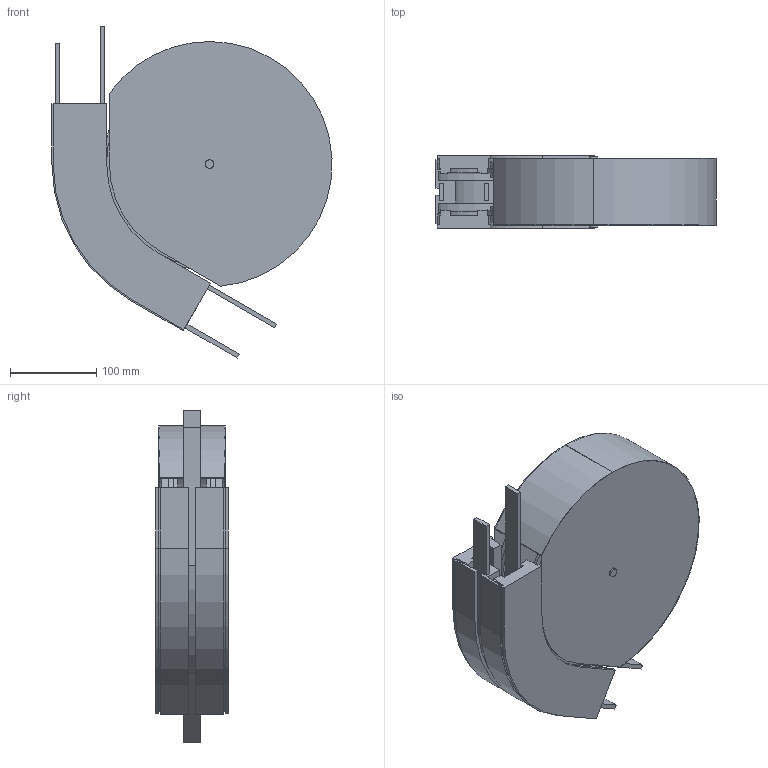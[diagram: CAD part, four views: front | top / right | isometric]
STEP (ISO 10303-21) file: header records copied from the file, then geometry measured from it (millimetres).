
FILE_DESCRIPTION (( 'STEP AP214' ), '1' );
FILE_NAME ('927769 CS65SL Draaischijfbocht 60 R150.STEP', '2017-12-21T08:29:30', ( '' ), ( '' ), 'SwSTEP 2.0', 'SolidWorks 2017', '' );
FILE_SCHEMA (( 'AUTOMOTIVE_DESIGN' ));
Length unit declared in the file: millimetre
Products named in the file (1): 927769 CS65SL Draaischijfbocht 60 R150
Bounding box: 324.35 x 84 x 384.59 mm (x, y, z)
Volume: 2663334.6 mm3; surface area: 731878.7 mm2
Topology: 3 solids, 3 shells, 184 faces, 490 edges, 320 vertices
Faces by surface type: plane 124, cylinder 56, cone 4
Entity records: 5750 total; most frequent: CARTESIAN_POINT 995, ORIENTED_EDGE 980, DIRECTION 976, EDGE_CURVE 490, LINE 374, VECTOR 374, VERTEX_POINT 320, AXIS2_PLACEMENT_3D 301
